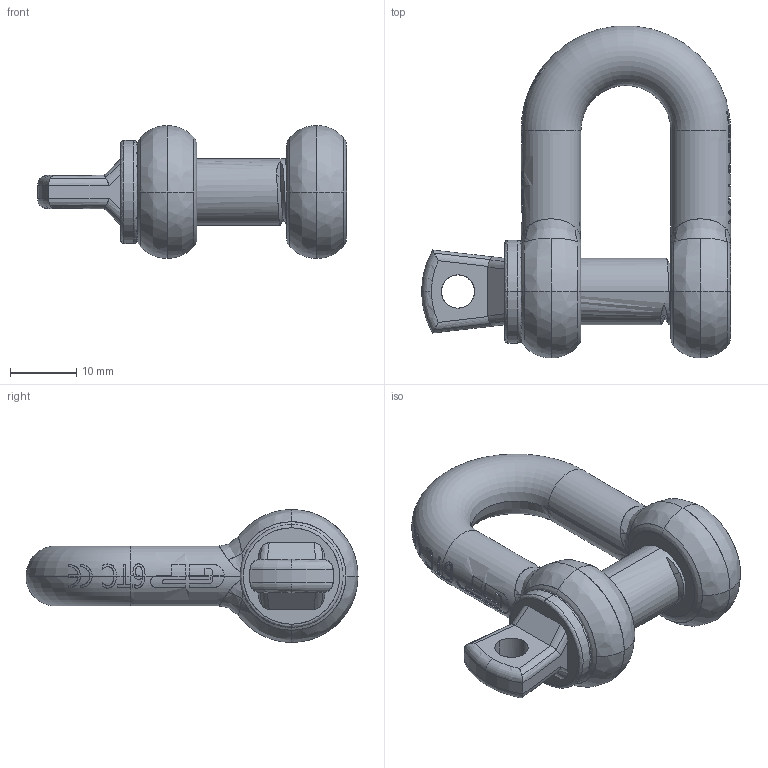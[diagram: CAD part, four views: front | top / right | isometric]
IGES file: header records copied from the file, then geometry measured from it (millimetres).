
Start section: START RECORD GO HERE.
Global section: file name: 0,75.igs; native system: Solidworks 2009      A Version 5 Release 17 ; preprocessor: Solidworks                 ; author: v.b.; organization: P4; date: 20090807.081930; units: millimetre
Bounding box: 46.5 x 49.95 x 20 mm (x, y, z)
Surface area: 6151.9 mm2 (no closed solid volume)
Topology: 0 solids, 0 shells, 377 faces, 2924 edges, 2916 vertices
Faces by surface type: bspline 146, revolution 125, plane 106
